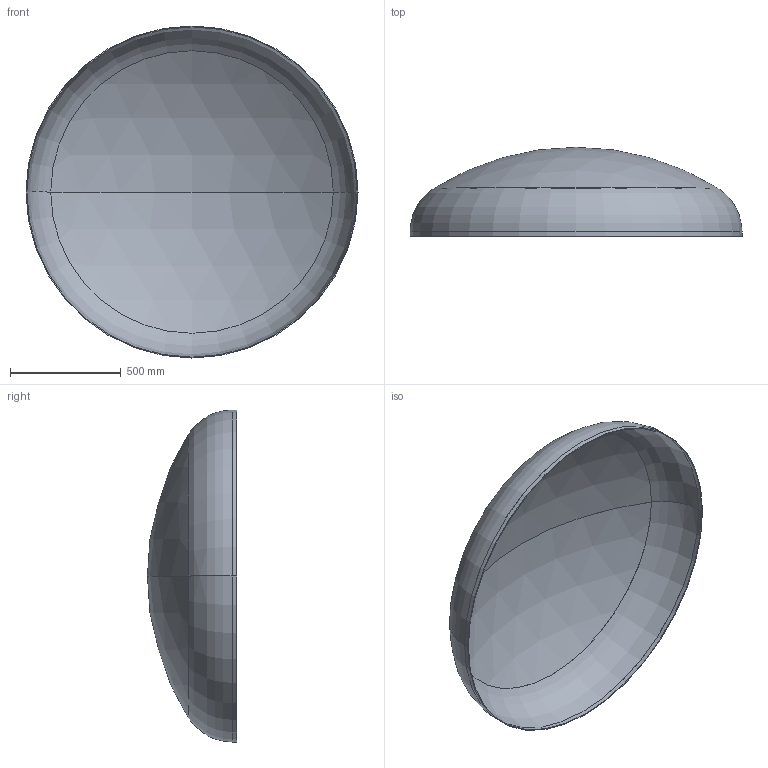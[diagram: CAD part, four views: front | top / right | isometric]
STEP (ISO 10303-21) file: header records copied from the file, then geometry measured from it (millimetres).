
FILE_DESCRIPTION (( 'STEP AP203' ), '1' );
FILE_NAME ('DIN 28013 Korbbogenform_-_Boden DIN 28013 - 1500 x 20 - I - s=4.step', '2016-07-01T10:33:08', ( '' ), ( '' ), 'SwSTEP 2.0', 'SolidWorks 2013', '' );
FILE_SCHEMA (( 'CONFIG_CONTROL_DESIGN' ));
Length unit declared in the file: millimetre
Products named in the file (1): DIN 28013 Korbbogenform_-_Boden DIN 28013 - 1500 x 20 - I - s=4
Bounding box: 1500 x 402.63 x 1500 mm (x, y, z)
Volume: 10123967.8 mm3; surface area: 5080814.7 mm2
Topology: 1 solids, 1 shells, 13 faces, 24 edges, 14 vertices
Faces by surface type: torus 4, cylinder 4, sphere 4, plane 1
Entity records: 407 total; most frequent: DIRECTION 72, CARTESIAN_POINT 52, ORIENTED_EDGE 48, AXIS2_PLACEMENT_3D 34, EDGE_CURVE 24, CIRCLE 20, EDGE_LOOP 14, VERTEX_POINT 14
